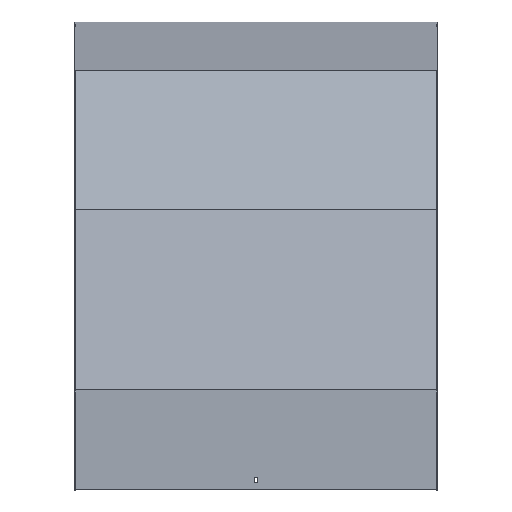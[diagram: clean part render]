
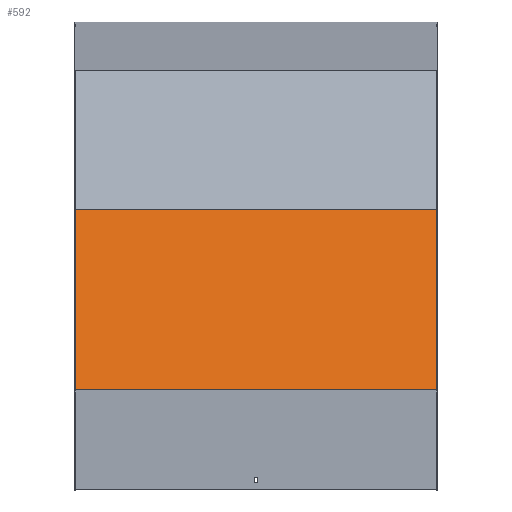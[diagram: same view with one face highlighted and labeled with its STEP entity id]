
A CAD part, top view. The second image highlights one B-rep face of the part: STEP entity #592.
In plain terms, the highlighted planar face has unit normal (0, 0.259, 0.966).
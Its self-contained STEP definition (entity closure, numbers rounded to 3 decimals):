
#42 = VECTOR ( 'NONE', #180, 1000. ) ;
#59 = ORIENTED_EDGE ( 'NONE', *, *, #461, .F. ) ;
#171 = CARTESIAN_POINT ( 'NONE',  ( 301.5, -593.325, 779.958 ) ) ;
#177 = CARTESIAN_POINT ( 'NONE',  ( -301.5, -298.106, 700.854 ) ) ;
#180 = DIRECTION ( 'NONE',  ( -1., 0., 0. ) ) ;
#193 = EDGE_LOOP ( 'NONE', ( #800, #59, #222, #632 ) ) ;
#222 = ORIENTED_EDGE ( 'NONE', *, *, #695, .F. ) ;
#240 = LINE ( 'NONE', #171, #1103 ) ;
#257 = CARTESIAN_POINT ( 'NONE',  ( 301.5, -298.106, 700.854 ) ) ;
#304 = AXIS2_PLACEMENT_3D ( 'NONE', #257, #941, #867 ) ;
#345 = VECTOR ( 'NONE', #665, 1000. ) ;
#420 = LINE ( 'NONE', #768, #42 ) ;
#461 = EDGE_CURVE ( 'NONE', #770, #622, #240, .T. ) ;
#472 = EDGE_CURVE ( 'NONE', #993, #622, #611, .T. ) ;
#477 = VECTOR ( 'NONE', #766, 1000. ) ;
#510 = FACE_OUTER_BOUND ( 'NONE', #193, .T. ) ;
#516 = DIRECTION ( 'NONE',  ( -1., 0., 0. ) ) ;
#551 = EDGE_CURVE ( 'NONE', #602, #993, #420, .T. ) ;
#592 = ADVANCED_FACE ( 'NONE', ( #510 ), #690, .F. ) ;
#602 = VERTEX_POINT ( 'NONE', #605 ) ;
#605 = CARTESIAN_POINT ( 'NONE',  ( 301.5, -292.929, 699.467 ) ) ;
#611 = LINE ( 'NONE', #177, #477 ) ;
#622 = VERTEX_POINT ( 'NONE', #691 ) ;
#632 = ORIENTED_EDGE ( 'NONE', *, *, #551, .T. ) ;
#665 = DIRECTION ( 'NONE',  ( 0., -0.966, 0.259 ) ) ;
#690 = PLANE ( 'NONE',  #304 ) ;
#691 = CARTESIAN_POINT ( 'NONE',  ( -301.5, -593.325, 779.958 ) ) ;
#695 = EDGE_CURVE ( 'NONE', #602, #770, #1088, .T. ) ;
#726 = CARTESIAN_POINT ( 'NONE',  ( -301.5, -292.929, 699.467 ) ) ;
#745 = CARTESIAN_POINT ( 'NONE',  ( 301.5, -593.325, 779.958 ) ) ;
#766 = DIRECTION ( 'NONE',  ( 0., -0.966, 0.259 ) ) ;
#768 = CARTESIAN_POINT ( 'NONE',  ( 301.5, -292.929, 699.467 ) ) ;
#770 = VERTEX_POINT ( 'NONE', #745 ) ;
#800 = ORIENTED_EDGE ( 'NONE', *, *, #472, .T. ) ;
#867 = DIRECTION ( 'NONE',  ( 0., 0.966, -0.259 ) ) ;
#941 = DIRECTION ( 'NONE',  ( 0., -0.259, -0.966 ) ) ;
#993 = VERTEX_POINT ( 'NONE', #726 ) ;
#997 = CARTESIAN_POINT ( 'NONE',  ( 301.5, -298.106, 700.854 ) ) ;
#1088 = LINE ( 'NONE', #997, #345 ) ;
#1103 = VECTOR ( 'NONE', #516, 1000. ) ;
